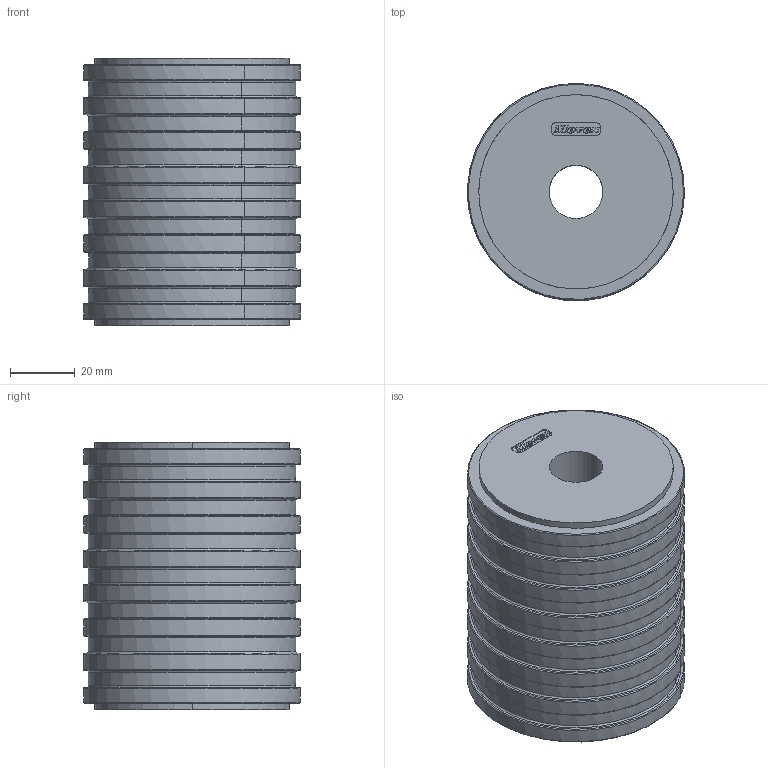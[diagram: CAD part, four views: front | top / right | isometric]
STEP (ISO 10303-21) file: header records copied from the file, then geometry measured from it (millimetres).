
FILE_DESCRIPTION(('STEP AP214'),'1');
FILE_NAME('P20401_01','2016-10-26T08:24:15',('dentellad'),(' '),'Spatial InterOp 3D',' ',' ');
FILE_SCHEMA(('automotive_design'));
Length unit declared in the file: millimetre
Products named in the file (2): 1; 2
Bounding box: 66.97 x 66.96 x 82.5 mm (x, y, z)
Volume: 259060.6 mm3; surface area: 60725.3 mm2
Topology: 2 solids, 2 shells, 590 faces, 1633 edges, 1069 vertices
Faces by surface type: plane 460, torus 90, cylinder 40
Entity records: 31406 total; most frequent: CARTESIAN_POINT 3294, ORIENTED_EDGE 3266, DIRECTION 3108, STYLED_ITEM 2191, PRESENTATION_STYLE_ASSIGNMENT 2191, COLOUR_RGB 2191, EDGE_CURVE 1633, CURVE_STYLE 1599
